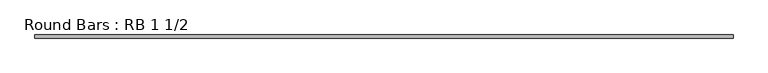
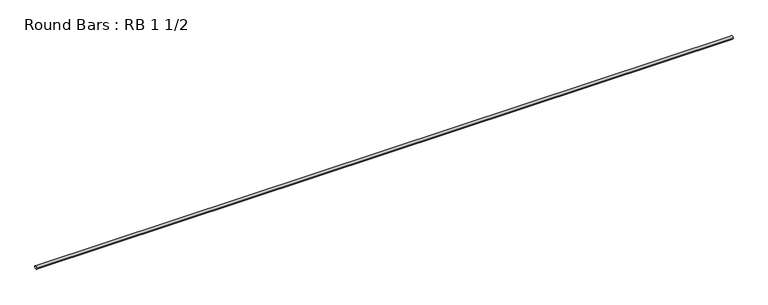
"""IFC4 building model written with IfcOpenShell, lengths in millimetres: member geometry, Round Bars : RB 1 1/2."""

from ifc_helpers import new_model, si_unit, point, frame, origin, origin_2d, place, context, project, spatial, circle_curve, trimmed, segment, composite_curve, outline, extrude, source, transform, mapped, element, save


def round_bars_rb_1_1_2_94b3812f(model_context):
    return source(origin(), model_context, "Body", "SweptSolid", [
        extrude(outline(composite_curve([segment(trimmed(circle_curve(origin_2d(), 19.05), [point((19.05, 0.0))], [point((-19.05, 0.0))], False, "CARTESIAN"), True, "CONTINUOUS"), segment(trimmed(circle_curve(origin_2d(), 19.05), [point((-19.05, 0.0))], [point((19.05, 0.0))], False, "CARTESIAN"), True, "CONTINUOUS")], self_intersect=False)), frame((-4214.4371295, 0.0, 0.0), z_axis=(1.0, 0.0, 0.0), x_axis=(0.0, 1.0, 0.0)), (0.0, 0.0, 1.0), 8428.8748968),
    ])


if __name__ == "__main__":
    model = new_model("IFC4")
    model_context = context("Model", 3, world=origin())
    ifc_project = project(units=[si_unit("LENGTHUNIT", "METRE", prefix="MILLI")], contexts=[model_context])
    site = spatial("IfcSite", under=ifc_project)
    building = spatial("IfcBuilding", under=site)
    placement = place(None, origin())
    round_bars_rb_1_1_2_shape = round_bars_rb_1_1_2_94b3812f(model_context)
    element("IfcMember", 1, ObjectType="Round Bars : RB 1 1/2", at=placement, inside=building, context=model_context, shape_type="MappedRepresentation", body=[
        mapped(round_bars_rb_1_1_2_shape, transform((0.0, 0.0, 0.0), x_axis=(1.0, 0.0, 0.0), y_axis=(0.0, 1.0, 0.0), z_axis=(0.0, 0.0, 1.0))),
    ])
    save(model, "model.ifc")
